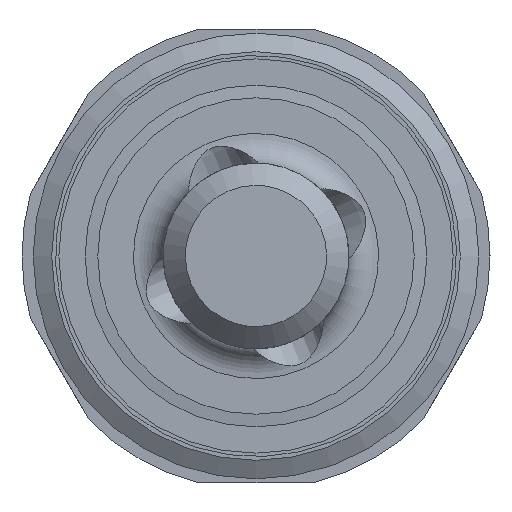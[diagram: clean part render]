
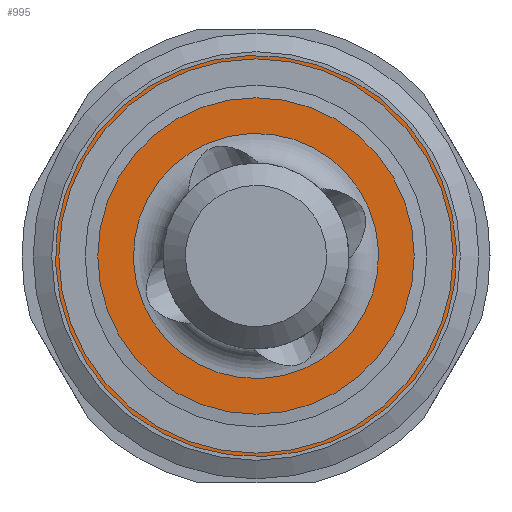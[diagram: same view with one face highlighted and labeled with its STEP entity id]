
A CAD part, left-side view. The second image highlights one B-rep face of the part: STEP entity #995.
In plain terms, the highlighted planar face has unit normal (-1, 0, 0).
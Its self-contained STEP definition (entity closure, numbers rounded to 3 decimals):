
#278=PLANE('',#5303);
#617=FACE_BOUND('',#1723,.T.);
#618=FACE_BOUND('',#1724,.T.);
#995=ADVANCED_FACE('',(#617,#618),#278,.T.);
#1723=EDGE_LOOP('',(#3103));
#1724=EDGE_LOOP('',(#3104));
#2165=CIRCLE('',#5300,27.);
#2166=CIRCLE('',#5302,16.5);
#3103=ORIENTED_EDGE('',*,*,#4486,.T.);
#3104=ORIENTED_EDGE('',*,*,#4485,.F.);
#3961=VERTEX_POINT('',#14952);
#3962=VERTEX_POINT('',#14955);
#4485=EDGE_CURVE('',#3961,#3961,#2165,.T.);
#4486=EDGE_CURVE('',#3962,#3962,#2166,.T.);
#5300=AXIS2_PLACEMENT_3D('',#14951,#6308,#6309);
#5302=AXIS2_PLACEMENT_3D('',#14954,#6312,#6313);
#5303=AXIS2_PLACEMENT_3D('',#14956,#6314,#6315);
#6308=DIRECTION('',(1.,0.,0.));
#6309=DIRECTION('',(0.,0.382,0.924));
#6312=DIRECTION('',(1.,0.,0.));
#6313=DIRECTION('',(0.,0.382,0.924));
#6314=DIRECTION('',(-1.,0.,0.));
#6315=DIRECTION('',(0.,-0.382,-0.924));
#14951=CARTESIAN_POINT('',(230.06,16.,69.926));
#14952=CARTESIAN_POINT('',(230.06,26.31,94.88));
#14954=CARTESIAN_POINT('',(230.06,16.,69.926));
#14955=CARTESIAN_POINT('',(230.06,22.301,85.176));
#14956=CARTESIAN_POINT('',(230.06,26.31,94.88));
